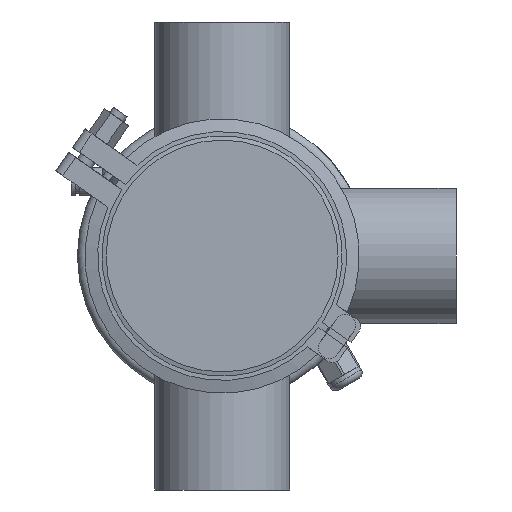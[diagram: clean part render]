
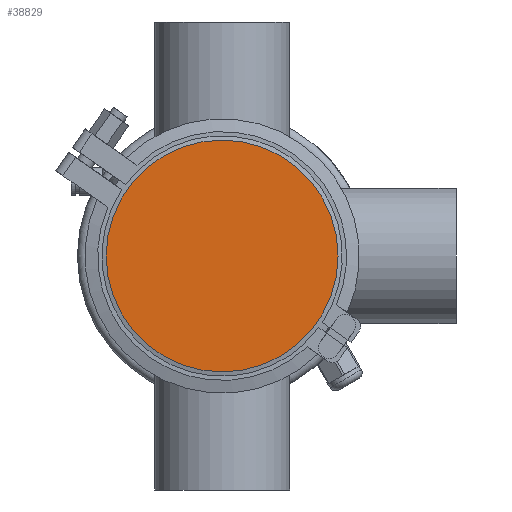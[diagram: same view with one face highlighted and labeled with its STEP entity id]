
A CAD part, front view. The second image highlights one B-rep face of the part: STEP entity #38829.
In plain terms, the highlighted planar face has unit normal (0, -1, 0).
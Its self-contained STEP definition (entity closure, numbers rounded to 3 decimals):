
#8 = DIRECTION ( 'NONE',  ( 0., -1., 0. ) ) ;
#1556 = CARTESIAN_POINT ( 'NONE',  ( 0., 0., 54.5 ) ) ;
#4010 = EDGE_CURVE ( 'NONE', #43655, #43655, #43763, .T. ) ;
#13446 = DIRECTION ( 'NONE',  ( 0., 0., 1. ) ) ;
#19532 = EDGE_LOOP ( 'NONE', ( #55417 ) ) ;
#22747 = CARTESIAN_POINT ( 'NONE',  ( 0., 0., 0. ) ) ;
#25033 = AXIS2_PLACEMENT_3D ( 'NONE', #22747, #41589, #13446 ) ;
#25182 = AXIS2_PLACEMENT_3D ( 'NONE', #47376, #8, #38679 ) ;
#28536 = PLANE ( 'NONE',  #25182 ) ;
#33751 = FACE_OUTER_BOUND ( 'NONE', #19532, .T. ) ;
#38679 = DIRECTION ( 'NONE',  ( 0., 0., -1. ) ) ;
#38829 = ADVANCED_FACE ( 'NONE', ( #33751 ), #28536, .T. ) ;
#41589 = DIRECTION ( 'NONE',  ( 0., 1., 0. ) ) ;
#43655 = VERTEX_POINT ( 'NONE', #1556 ) ;
#43763 = CIRCLE ( 'NONE', #25033, 54.5 ) ;
#47376 = CARTESIAN_POINT ( 'NONE',  ( -54.5, 0., 0. ) ) ;
#55417 = ORIENTED_EDGE ( 'NONE', *, *, #4010, .F. ) ;
